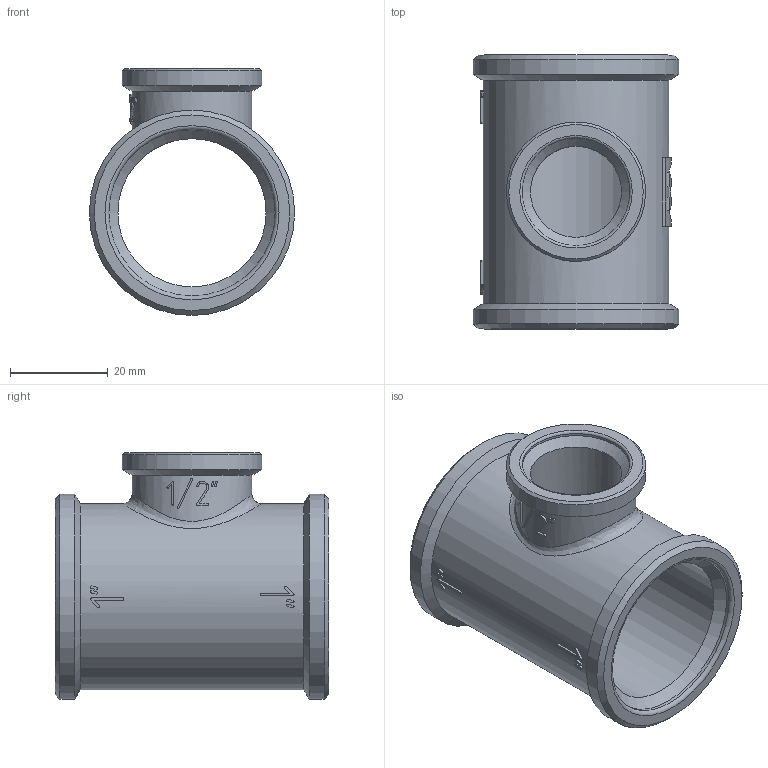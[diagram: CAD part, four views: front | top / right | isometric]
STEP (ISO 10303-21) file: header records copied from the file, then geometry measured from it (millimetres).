
FILE_DESCRIPTION(('STEP AP203'), '1');
FILE_NAME('ÂÐ.752243.008 -VTr.750.N.0604 - Ôèò. ðåçüá. òðîé', '2024-07-15T08:45:31', ('Boss'), (''), 'C3D Converter', 'C3D Toolkit', '');
FILE_SCHEMA(('CONFIG_CONTROL_DESIGN'));
Length unit declared in the file: millimetre
Products named in the file (1): ВР.752243.008
Bounding box: 42 x 56 x 50.5 mm (x, y, z)
Volume: 26286.9 mm3; surface area: 14990.3 mm2
Topology: 1 solids, 1 shells, 214 faces, 577 edges, 379 vertices
Faces by surface type: extrusion 112, plane 64, cylinder 25, cone 9, torus 3, bspline 1
Full cylindrical faces by diameter (mm): 18.632 x1, 22 x1, 24.5 x1, 28.5 x1, 30.292 x1, 34 x2, 38 x1, 42 x2
Entity records: 9656 total; most frequent: CARTESIAN_POINT 5018, ORIENTED_EDGE 1104, DIRECTION 596, EDGE_CURVE 552, VERTEX_POINT 378, B_SPLINE_CURVE_WITH_KNOTS 341, VECTOR 310, EDGE_LOOP 256
